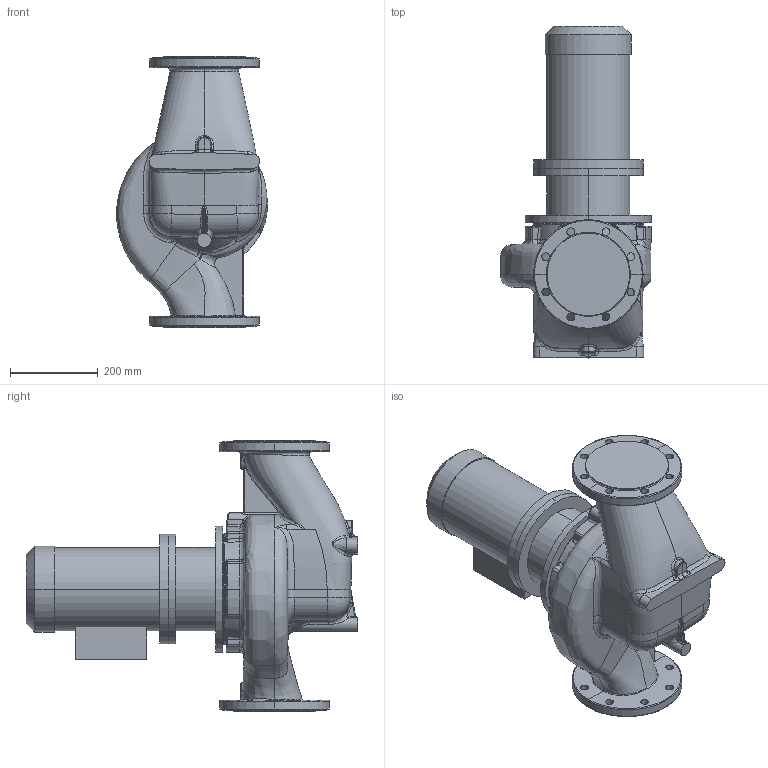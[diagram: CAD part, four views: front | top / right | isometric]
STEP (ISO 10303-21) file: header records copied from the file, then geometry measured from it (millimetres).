
FILE_DESCRIPTION (( 'STEP AP203' ), '1' );
FILE_NAME ('KRL 125-160-4-2,2.STEP', '2026-04-03T11:46:21', ( '' ), ( '' ), 'SwSTEP 2.0', 'SolidWorks 2016', '' );
FILE_SCHEMA (( 'CONFIG_CONTROL_DESIGN' ));
Length unit declared in the file: millimetre
Products named in the file (1): KRL 125-160-4-2,2
Bounding box: 344.27 x 756.8 x 620 mm (x, y, z)
Volume: 43133012.1 mm3; surface area: 1484993.4 mm2
Topology: 4 solids, 4 shells, 621 faces, 1533 edges, 923 vertices
Faces by surface type: bspline 289, cylinder 158, plane 89, torus 41, cone 32, sphere 12
Entity records: 61531 total; most frequent: CARTESIAN_POINT 49341, ORIENTED_EDGE 3038, DIRECTION 1831, EDGE_CURVE 1519, VERTEX_POINT 923, AXIS2_PLACEMENT_3D 783, B_SPLINE_CURVE_WITH_KNOTS 717, EDGE_LOOP 670
